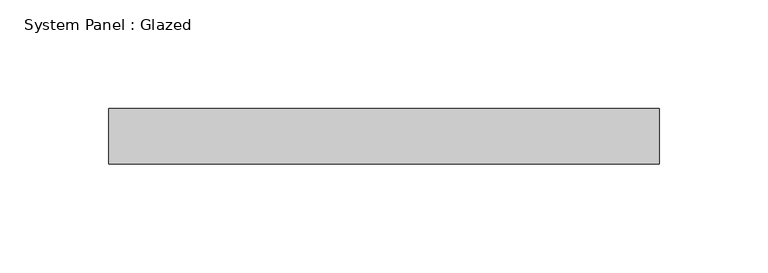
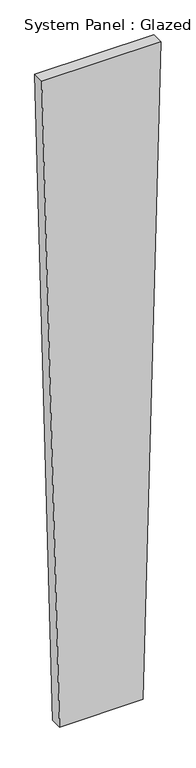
"""IFC4 building model written with IfcOpenShell, lengths in millimetres: plate geometry, System Panel : Glazed."""

from ifc_helpers import new_model, si_unit, frame, origin, place, context, project, spatial, polyline, outline, extrude, source, transform, mapped, element, save


def system_panel_glazed_03609b2e(model_context):
    return source(origin(), model_context, "Body", "SweptSolid", [
        extrude(outline(polyline([(0.0, -88.8208116), (0.0, 88.8208116), (1459.9947338, 126.4254936), (1459.9947338, -126.4254936), (0.0, -88.8208116)])), frame((0.0, 19.05, 0.0), z_axis=(0.0, 1.0, 0.0), x_axis=(0.0, 0.0, 1.0)), (0.0, 0.0, 1.0), 25.4),
    ])


if __name__ == "__main__":
    model = new_model("IFC4")
    model_context = context("Model", 3, world=origin())
    ifc_project = project(units=[si_unit("LENGTHUNIT", "METRE", prefix="MILLI")], contexts=[model_context])
    site = spatial("IfcSite", under=ifc_project)
    building = spatial("IfcBuilding", under=site)
    placement = place(None, origin())
    system_panel_glazed_shape = system_panel_glazed_03609b2e(model_context)
    element("IfcPlate", 1, ObjectType="System Panel : Glazed", at=placement, inside=building, context=model_context, shape_type="MappedRepresentation", body=[
        mapped(system_panel_glazed_shape, transform((0.0, 0.0, 0.0), x_axis=(1.0, 0.0, 0.0), y_axis=(0.0, 1.0, 0.0), z_axis=(0.0, 0.0, 1.0))),
    ])
    save(model, "model.ifc")
